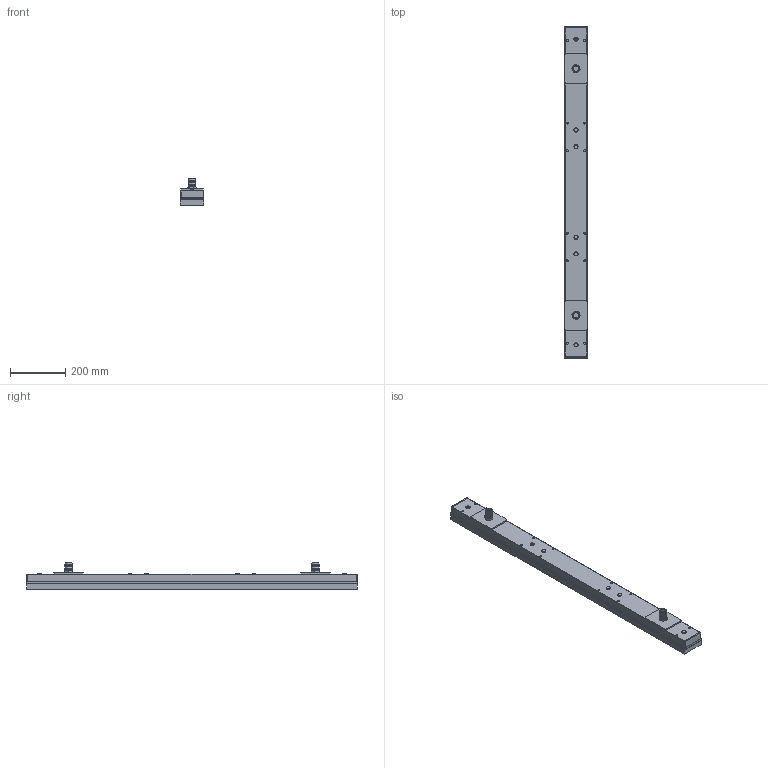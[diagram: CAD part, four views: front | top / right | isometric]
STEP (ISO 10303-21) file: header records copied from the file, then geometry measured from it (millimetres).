
FILE_DESCRIPTION (( 'STEP AP203' ), '1' );
FILE_NAME ('9671-120-014.STEP', '2014-03-17T08:01:16', ( '' ), ( '' ), 'SwSTEP 2.0', 'SolidWorks 2014', '' );
FILE_SCHEMA (( 'CONFIG_CONTROL_DESIGN' ));
Length unit declared in the file: millimetre
Products named in the file (1): 9671-120-014
Bounding box: 86 x 1206 x 96.5 mm (x, y, z)
Volume: 4984572.2 mm3; surface area: 553235.2 mm2
Topology: 1 solids, 1 shells, 516 faces, 1126 edges, 761 vertices
Faces by surface type: plane 267, cylinder 175, cone 40, bspline 20, torus 14
Full cylindrical faces by diameter (mm): 6.8 x12, 15 x84, 18.9 x2, 20 x39, 26.96 x2
Entity records: 13581 total; most frequent: CARTESIAN_POINT 3449, DIRECTION 2194, ORIENTED_EDGE 1660, AXIS2_PLACEMENT_3D 943, EDGE_CURVE 830, EDGE_LOOP 822, FACE_OUTER_BOUND 657, VERTEX_POINT 622
